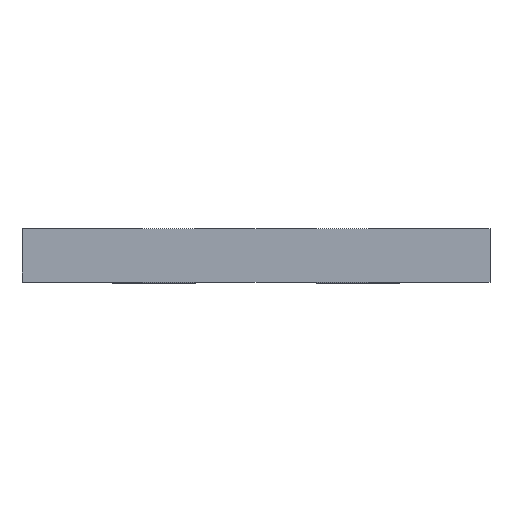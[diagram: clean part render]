
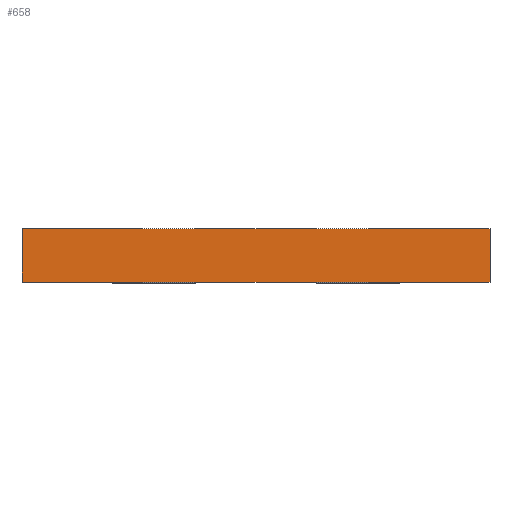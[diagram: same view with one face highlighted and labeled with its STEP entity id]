
A CAD part, top view. The second image highlights one B-rep face of the part: STEP entity #658.
In plain terms, the highlighted planar face has unit normal (0, 0, 1).
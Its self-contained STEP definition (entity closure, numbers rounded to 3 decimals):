
#24 = VERTEX_POINT('',#25);
#25 = CARTESIAN_POINT('',(-5.,24.8,11.));
#32 = PLANE('',#33);
#33 = AXIS2_PLACEMENT_3D('',#34,#35,#36);
#34 = CARTESIAN_POINT('',(-5.,24.8,7.4));
#35 = DIRECTION('',(1.,0.,-0.));
#36 = DIRECTION('',(0.,0.,1.));
#44 = PLANE('',#45);
#45 = AXIS2_PLACEMENT_3D('',#46,#47,#48);
#46 = CARTESIAN_POINT('',(-5.,24.8,7.4));
#47 = DIRECTION('',(-0.,1.,0.));
#48 = DIRECTION('',(0.,0.,1.));
#85 = VERTEX_POINT('',#86);
#86 = CARTESIAN_POINT('',(-5.,26.4,11.));
#100 = PLANE('',#101);
#101 = AXIS2_PLACEMENT_3D('',#102,#103,#104);
#102 = CARTESIAN_POINT('',(-5.,26.4,7.4));
#103 = DIRECTION('',(-0.,1.,0.));
#104 = DIRECTION('',(0.,0.,1.));
#112 = EDGE_CURVE('',#24,#85,#113,.T.);
#113 = SURFACE_CURVE('',#114,(#118,#125),.PCURVE_S1.);
#114 = LINE('',#115,#116);
#115 = CARTESIAN_POINT('',(-5.,24.8,11.));
#116 = VECTOR('',#117,1.);
#117 = DIRECTION('',(-0.,1.,0.));
#118 = PCURVE('',#32,#119);
#119 = DEFINITIONAL_REPRESENTATION('',(#120),#124);
#120 = LINE('',#121,#122);
#121 = CARTESIAN_POINT('',(3.6,0.));
#122 = VECTOR('',#123,1.);
#123 = DIRECTION('',(0.,-1.));
#124 = ( GEOMETRIC_REPRESENTATION_CONTEXT(2) 
PARAMETRIC_REPRESENTATION_CONTEXT() REPRESENTATION_CONTEXT('2D SPACE',''
  ) );
#125 = PCURVE('',#126,#131);
#126 = PLANE('',#127);
#127 = AXIS2_PLACEMENT_3D('',#128,#129,#130);
#128 = CARTESIAN_POINT('',(-5.,24.8,11.));
#129 = DIRECTION('',(0.,0.,1.));
#130 = DIRECTION('',(1.,0.,-0.));
#131 = DEFINITIONAL_REPRESENTATION('',(#132),#136);
#132 = LINE('',#133,#134);
#133 = CARTESIAN_POINT('',(0.,0.));
#134 = VECTOR('',#135,1.);
#135 = DIRECTION('',(0.,1.));
#136 = ( GEOMETRIC_REPRESENTATION_CONTEXT(2) 
PARAMETRIC_REPRESENTATION_CONTEXT() REPRESENTATION_CONTEXT('2D SPACE',''
  ) );
#165 = EDGE_CURVE('',#24,#166,#168,.T.);
#166 = VERTEX_POINT('',#167);
#167 = CARTESIAN_POINT('',(9.,24.8,11.));
#168 = SURFACE_CURVE('',#169,(#173,#180),.PCURVE_S1.);
#169 = LINE('',#170,#171);
#170 = CARTESIAN_POINT('',(-5.,24.8,11.));
#171 = VECTOR('',#172,1.);
#172 = DIRECTION('',(1.,0.,-0.));
#173 = PCURVE('',#44,#174);
#174 = DEFINITIONAL_REPRESENTATION('',(#175),#179);
#175 = LINE('',#176,#177);
#176 = CARTESIAN_POINT('',(3.6,0.));
#177 = VECTOR('',#178,1.);
#178 = DIRECTION('',(0.,1.));
#179 = ( GEOMETRIC_REPRESENTATION_CONTEXT(2) 
PARAMETRIC_REPRESENTATION_CONTEXT() REPRESENTATION_CONTEXT('2D SPACE',''
  ) );
#180 = PCURVE('',#126,#181);
#181 = DEFINITIONAL_REPRESENTATION('',(#182),#186);
#182 = LINE('',#183,#184);
#183 = CARTESIAN_POINT('',(0.,0.));
#184 = VECTOR('',#185,1.);
#185 = DIRECTION('',(1.,0.));
#186 = ( GEOMETRIC_REPRESENTATION_CONTEXT(2) 
PARAMETRIC_REPRESENTATION_CONTEXT() REPRESENTATION_CONTEXT('2D SPACE',''
  ) );
#204 = PLANE('',#205);
#205 = AXIS2_PLACEMENT_3D('',#206,#207,#208);
#206 = CARTESIAN_POINT('',(9.,24.8,7.4));
#207 = DIRECTION('',(1.,0.,-0.));
#208 = DIRECTION('',(0.,0.,1.));
#658 = ADVANCED_FACE('',(#659),#126,.T.);
#659 = FACE_BOUND('',#660,.T.);
#660 = EDGE_LOOP('',(#661,#662,#663,#686));
#661 = ORIENTED_EDGE('',*,*,#112,.F.);
#662 = ORIENTED_EDGE('',*,*,#165,.T.);
#663 = ORIENTED_EDGE('',*,*,#664,.T.);
#664 = EDGE_CURVE('',#166,#665,#667,.T.);
#665 = VERTEX_POINT('',#666);
#666 = CARTESIAN_POINT('',(9.,26.4,11.));
#667 = SURFACE_CURVE('',#668,(#672,#679),.PCURVE_S1.);
#668 = LINE('',#669,#670);
#669 = CARTESIAN_POINT('',(9.,24.8,11.));
#670 = VECTOR('',#671,1.);
#671 = DIRECTION('',(-0.,1.,0.));
#672 = PCURVE('',#126,#673);
#673 = DEFINITIONAL_REPRESENTATION('',(#674),#678);
#674 = LINE('',#675,#676);
#675 = CARTESIAN_POINT('',(14.,0.));
#676 = VECTOR('',#677,1.);
#677 = DIRECTION('',(0.,1.));
#678 = ( GEOMETRIC_REPRESENTATION_CONTEXT(2) 
PARAMETRIC_REPRESENTATION_CONTEXT() REPRESENTATION_CONTEXT('2D SPACE',''
  ) );
#679 = PCURVE('',#204,#680);
#680 = DEFINITIONAL_REPRESENTATION('',(#681),#685);
#681 = LINE('',#682,#683);
#682 = CARTESIAN_POINT('',(3.6,0.));
#683 = VECTOR('',#684,1.);
#684 = DIRECTION('',(0.,-1.));
#685 = ( GEOMETRIC_REPRESENTATION_CONTEXT(2) 
PARAMETRIC_REPRESENTATION_CONTEXT() REPRESENTATION_CONTEXT('2D SPACE',''
  ) );
#686 = ORIENTED_EDGE('',*,*,#687,.F.);
#687 = EDGE_CURVE('',#85,#665,#688,.T.);
#688 = SURFACE_CURVE('',#689,(#693,#700),.PCURVE_S1.);
#689 = LINE('',#690,#691);
#690 = CARTESIAN_POINT('',(-5.,26.4,11.));
#691 = VECTOR('',#692,1.);
#692 = DIRECTION('',(1.,0.,-0.));
#693 = PCURVE('',#126,#694);
#694 = DEFINITIONAL_REPRESENTATION('',(#695),#699);
#695 = LINE('',#696,#697);
#696 = CARTESIAN_POINT('',(0.,1.6));
#697 = VECTOR('',#698,1.);
#698 = DIRECTION('',(1.,0.));
#699 = ( GEOMETRIC_REPRESENTATION_CONTEXT(2) 
PARAMETRIC_REPRESENTATION_CONTEXT() REPRESENTATION_CONTEXT('2D SPACE',''
  ) );
#700 = PCURVE('',#100,#701);
#701 = DEFINITIONAL_REPRESENTATION('',(#702),#706);
#702 = LINE('',#703,#704);
#703 = CARTESIAN_POINT('',(3.6,0.));
#704 = VECTOR('',#705,1.);
#705 = DIRECTION('',(0.,1.));
#706 = ( GEOMETRIC_REPRESENTATION_CONTEXT(2) 
PARAMETRIC_REPRESENTATION_CONTEXT() REPRESENTATION_CONTEXT('2D SPACE',''
  ) );
